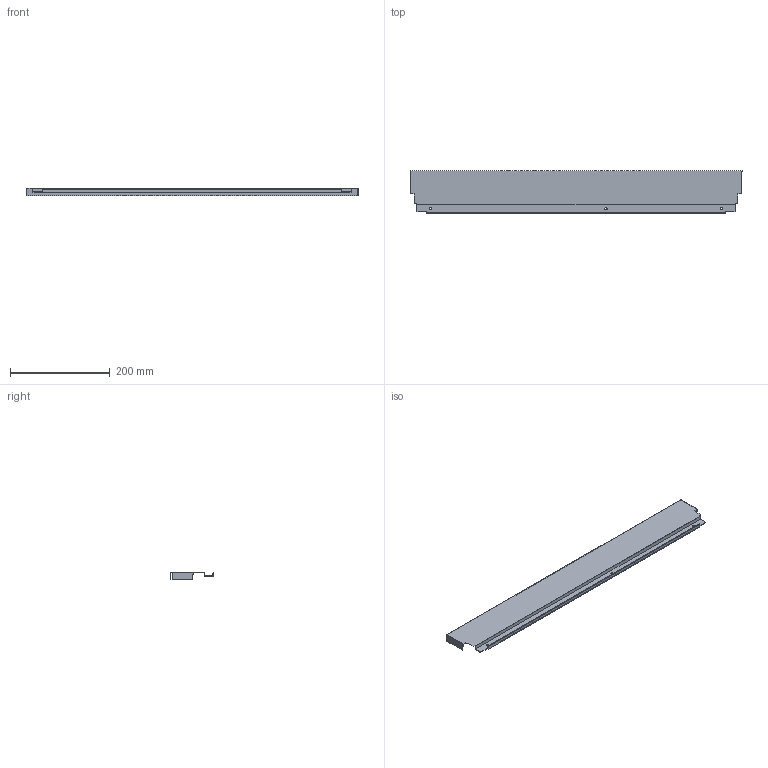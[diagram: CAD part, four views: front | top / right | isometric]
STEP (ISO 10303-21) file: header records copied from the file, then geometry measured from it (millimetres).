
FILE_DESCRIPTION (( 'STEP AP214' ), '1' );
FILE_NAME ('_DWD_XP Stahlrückwand_H86_KAB750_S18.step', '2010-07-08T12:10:23', ( 'grass' ), ( '' ), 'SwSTEP 2.0', 'SolidWorks 2010', '' );
FILE_SCHEMA (( 'AUTOMOTIVE_DESIGN' ));
Length unit declared in the file: millimetre
Products named in the file (1): _DWD_XP Stahlrückwand_H86_KAB750_S18
Bounding box: 665 x 85.79 x 16 mm (x, y, z)
Volume: 71072.7 mm3; surface area: 154551 mm2
Topology: 1 solids, 1 shells, 50 faces, 144 edges, 96 vertices
Faces by surface type: plane 44, cylinder 6
Entity records: 1666 total; most frequent: CARTESIAN_POINT 291, ORIENTED_EDGE 288, DIRECTION 258, EDGE_CURVE 144, VECTOR 132, LINE 132, VERTEX_POINT 96, AXIS2_PLACEMENT_3D 63
